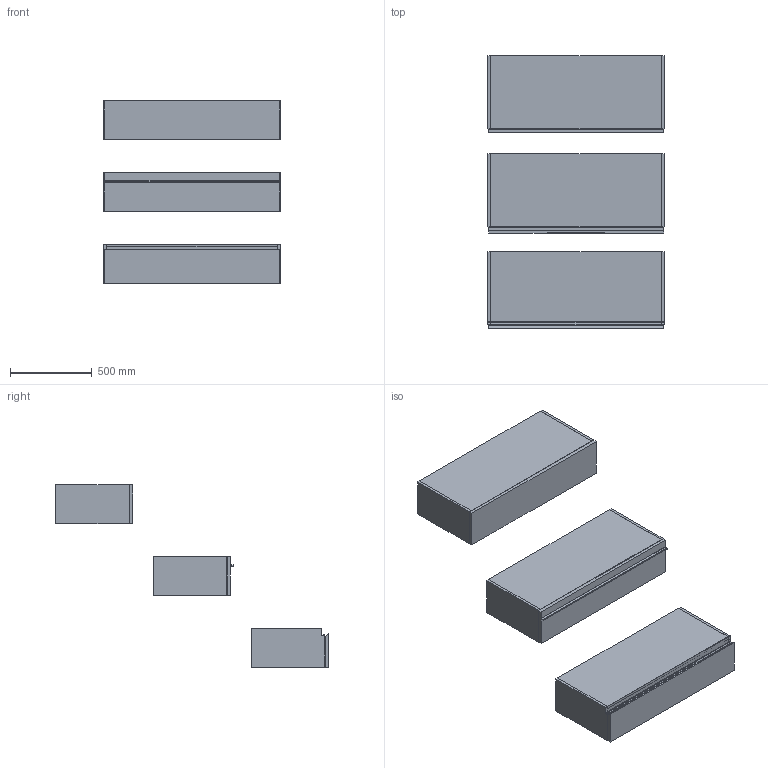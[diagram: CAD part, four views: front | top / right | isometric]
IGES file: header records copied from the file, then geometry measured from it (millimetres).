
Start section: Data from Parasolid IGES Translator 19.0.9, Copyright(c) 2006 Siemens PL M Software. All Rights Reserved.
Global section: file name: noorth-SI-H 24 D 47 W 108_8294.igs; native system: By Siemens PLM Incorporated; preprocessor: XPlus GENERIC/IGES 19.0.9; author: Noname; organization: Noname; date: 20200530.114224; units: metre
Bounding box: 1080.01 x 1669.1 x 1120 mm (x, y, z)
Volume: 71152875.9 mm3; surface area: 10447611.1 mm2
Topology: 20 solids, 20 shells, 178 faces, 382 edges, 234 vertices
Faces by surface type: plane 134, extrusion 16, bspline 16, cylinder 12
